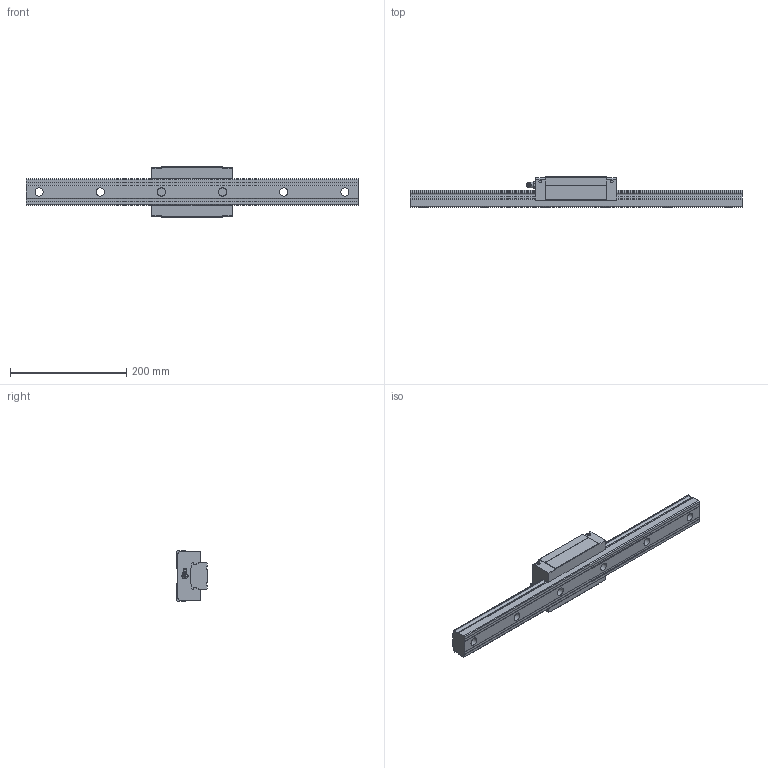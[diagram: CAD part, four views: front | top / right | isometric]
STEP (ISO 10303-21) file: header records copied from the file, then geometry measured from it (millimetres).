
FILE_DESCRIPTION(/* description */ ('STEP AP203'),/* implementation_level */ '2;1');
FILE_NAME(/* name */ 'SVR45R1SS-570L_G22-5_0_B-PT18_215-9_0_0_0_1',/* time_stamp */ '2024-05-17T07:06:28+02:00',/* author */ ('License CC BY-ND 4.0'),/* organization */ ('CADENAS'),/* preprocessor_version */ 'ST-DEVELOPER v19.3',/* originating_system */ 'PARTsolutions',/* authorisation */ ' ');
FILE_SCHEMA (('CONFIG_CONTROL_DESIGN'));
Length unit declared in the file: millimetre
Products named in the file (4): SVR45R1SS-570L_G22-5_0_B-PT18_215-9_0_0_0_1; SVR 45R57022.5 R Track; SVR 45R1SSB-PT1/81 Slide; B-PT1/8_grease_nipple_joint1_SVR
Assembly tree (3 placements, depth 2):
  SVR45R1SS-570L_G22-5_0_B-PT18_215-9_0_0_0_1
    SVR 45R57022.5 R Track
    SVR 45R1SSB-PT1/81 Slide
    B-PT1/8_grease_nipple_joint1_SVR
Bounding box: 570 x 52 x 86 mm (x, y, z)
Volume: 1016985.1 mm3; surface area: 144575.9 mm2
Topology: 3 solids, 3 shells, 185 faces, 488 edges, 321 vertices
Faces by surface type: plane 99, cylinder 61, cone 20, torus 3, sphere 2
Full cylindrical faces by diameter (mm): 5.2 x4, 8.376 x4, 9.6 x1, 14 x6, 20 x6
Entity records: 5546 total; most frequent: CARTESIAN_POINT 1048, DIRECTION 920, ORIENTED_EDGE 846, EDGE_CURVE 423, AXIS2_PLACEMENT_3D 335, VERTEX_POINT 308, FACE_BOUND 261, EDGE_LOOP 255
